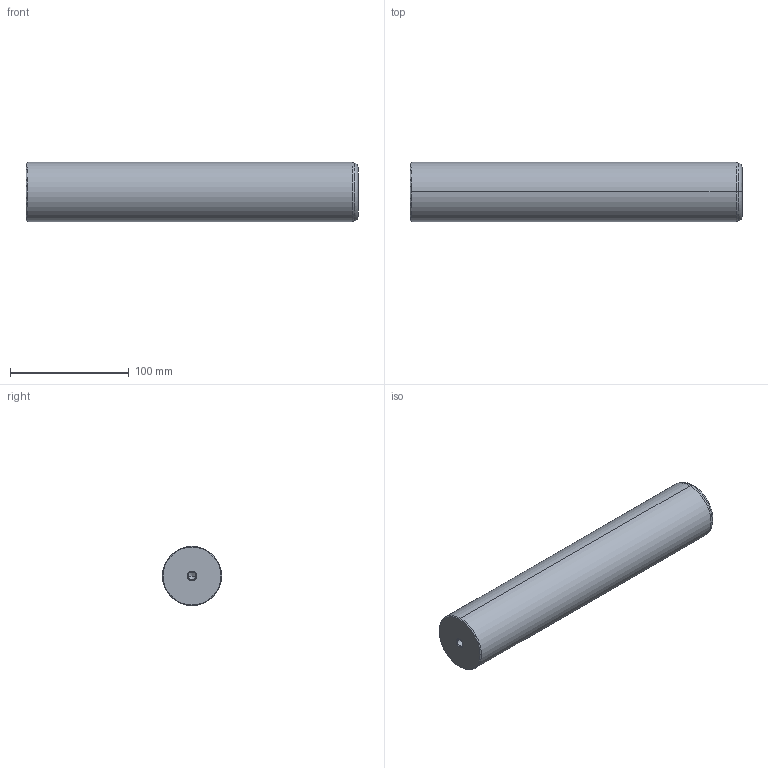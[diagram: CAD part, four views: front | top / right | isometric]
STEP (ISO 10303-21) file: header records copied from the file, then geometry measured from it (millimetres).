
FILE_DESCRIPTION(('CATIA V5 STEP Exchange'),'2;1');
FILE_NAME('C:\Users\Utente\Desktop\IO LAVORO\3D X SITO CF\X SITO\720\720-50x280.stp','2020-12-30T21:40:55+00:00',('none'),('none'),'CATIA Version 5 Release 20 GA (IN-10)','CATIA V5 STEP AP203','none');
FILE_SCHEMA(('CONFIG_CONTROL_DESIGN'));
Length unit declared in the file: millimetre
Products named in the file (1): 720-50x280
Bounding box: 280 x 50 x 50 mm (x, y, z)
Volume: 547233.9 mm3; surface area: 48502 mm2
Topology: 1 solids, 1 shells, 22 faces, 56 edges, 34 vertices
Faces by surface type: cone 12, cylinder 6, plane 2, torus 2
Entity records: 755 total; most frequent: CARTESIAN_POINT 216, ORIENTED_EDGE 104, DIRECTION 89, EDGE_CURVE 52, AXIS2_PLACEMENT_3D 50, VERTEX_POINT 34, CIRCLE 27, EDGE_LOOP 24
